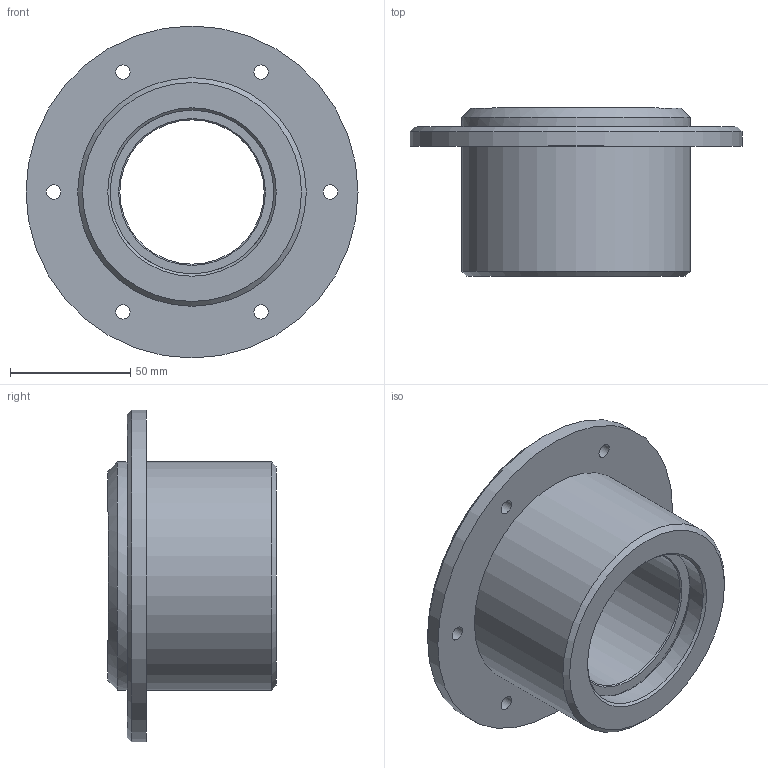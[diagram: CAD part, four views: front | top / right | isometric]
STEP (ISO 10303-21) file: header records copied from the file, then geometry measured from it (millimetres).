
FILE_DESCRIPTION(('STEP AP214'),'1');
FILE_NAME('C:/Projets/Serie 10.xx.xx/10.13.06.step','2011-11-10T15:49:11',(' '),(' '),'Spatial InterOp 3D',' ',' ');
FILE_SCHEMA(('automotive_design'));
Length unit declared in the file: metre
Products named in the file (3): rotule 06; boitier 06; 1
Bounding box: 138 x 70 x 138 mm (x, y, z)
Volume: 320483.1 mm3; surface area: 85327.5 mm2
Topology: 2 solids, 2 shells, 56 faces, 725 edges, 1254 vertices
Faces by surface type: cylinder 19, cone 18, plane 15, sphere 2, bspline 2
Full cylindrical faces by diameter (mm): 6 x6, 60 x1, 68 x1, 95 x2, 138 x1
Entity records: 9164 total; most frequent: CARTESIAN_POINT 1024, DIRECTION 848, STYLED_ITEM 643, PRESENTATION_STYLE_ASSIGNMENT 643, COLOUR_RGB 643, LINE 602, VECTOR 602, TRIMMED_CURVE 587
